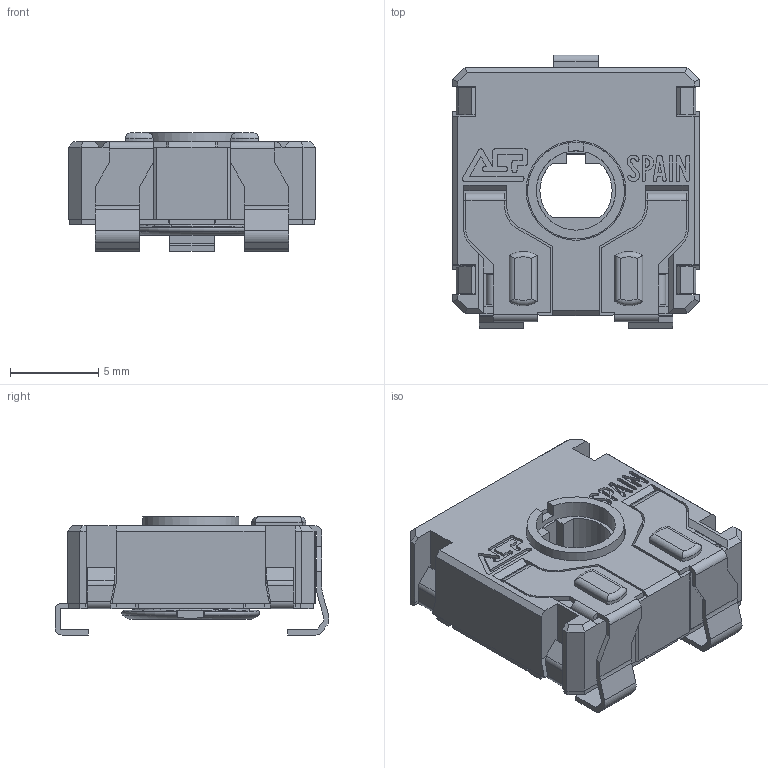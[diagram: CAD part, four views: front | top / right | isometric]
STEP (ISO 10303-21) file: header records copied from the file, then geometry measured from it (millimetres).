
FILE_DESCRIPTION(/* description */ (''),/* implementation_level */ '2;1');
FILE_NAME(/* name */ 'C:\Users\CEM\Desktop\ENVIAR\TRANSICION 3D CATALOGOS\CS14TVSMD.stp',/* time_stamp */ '2025-10-24T17:52:21+02:00',/* author */ ('CEM'),/* organization */ (''),/* preprocessor_version */ 'ST-DEVELOPER v17',/* originating_system */ 'Autodesk Inventor 2018',/* authorisation */ '');
FILE_SCHEMA (('AUTOMOTIVE_DESIGN { 1 0 10303 214 3 1 1 }'));
Length unit declared in the file: millimetre
Products named in the file (1): CS14TVSMD
Bounding box: 14 x 15.55 x 6.7 mm (x, y, z)
Volume: 549.6 mm3; surface area: 1609.5 mm2
Topology: 1 solids, 3 shells, 727 faces, 2036 edges, 1316 vertices
Faces by surface type: plane 542, cylinder 146, cone 17, torus 12, bspline 10
Full cylindrical faces by diameter (mm): 4.5 x1, 5.5 x1, 5.65 x1, 6.87 x1
Entity records: 24229 total; most frequent: CARTESIAN_POINT 4511, ORIENTED_EDGE 4072, DIRECTION 3798, EDGE_CURVE 2036, LINE 1592, VECTOR 1592, VERTEX_POINT 1316, AXIS2_PLACEMENT_3D 1103
